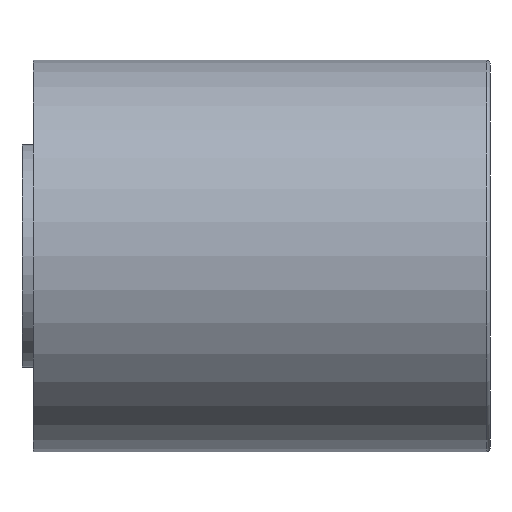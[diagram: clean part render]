
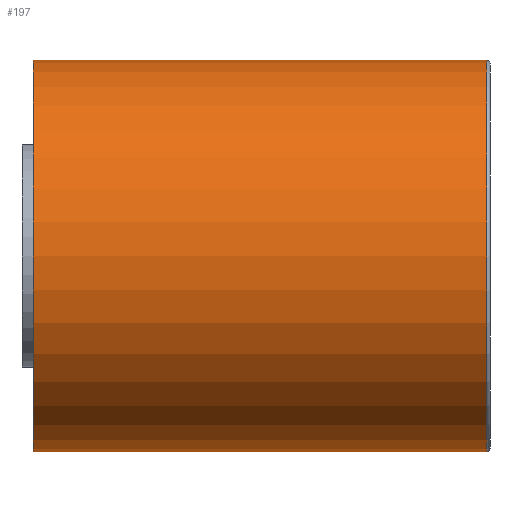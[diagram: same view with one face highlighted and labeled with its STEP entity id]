
A CAD part, front view. The second image highlights one B-rep face of the part: STEP entity #197.
In plain terms, the highlighted cylindrical face has radius 6 mm (diameter 12 mm), a full revolution.
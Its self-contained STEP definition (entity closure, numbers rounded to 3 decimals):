
#197 = ADVANCED_FACE( '', ( #288, #289 ), #290, .T. );
#288 = FACE_OUTER_BOUND( '', #415, .T. );
#289 = FACE_OUTER_BOUND( '', #416, .T. );
#290 = CYLINDRICAL_SURFACE( '', #417, 6. );
#415 = EDGE_LOOP( '', ( #693 ) );
#416 = EDGE_LOOP( '', ( #694 ) );
#417 = AXIS2_PLACEMENT_3D( '', #695, #696, #697 );
#693 = ORIENTED_EDGE( '', *, *, #861, .T. );
#694 = ORIENTED_EDGE( '', *, *, #923, .F. );
#695 = CARTESIAN_POINT( '', ( 11.72, 0., 0. ) );
#696 = DIRECTION( '', ( -1., 0., 0. ) );
#697 = DIRECTION( '', ( 0., 0., -1. ) );
#861 = EDGE_CURVE( '', #977, #977, #978, .T. );
#923 = EDGE_CURVE( '', #1081, #1081, #1082, .T. );
#977 = VERTEX_POINT( '', #1170 );
#978 = CIRCLE( '', #1171, 6. );
#1081 = VERTEX_POINT( '', #1334 );
#1082 = CIRCLE( '', #1335, 6. );
#1170 = CARTESIAN_POINT( '', ( -2.28, 0., -6. ) );
#1171 = AXIS2_PLACEMENT_3D( '', #1427, #1428, #1429 );
#1334 = CARTESIAN_POINT( '', ( 11.62, 0., -6. ) );
#1335 = AXIS2_PLACEMENT_3D( '', #1493, #1494, #1495 );
#1427 = CARTESIAN_POINT( '', ( -2.28, 0., 0. ) );
#1428 = DIRECTION( '', ( 1., 0., 0. ) );
#1429 = DIRECTION( '', ( 0., 0., -1. ) );
#1493 = CARTESIAN_POINT( '', ( 11.62, 0., 0. ) );
#1494 = DIRECTION( '', ( 1., 0., 0. ) );
#1495 = DIRECTION( '', ( 0., 0., -1. ) );
